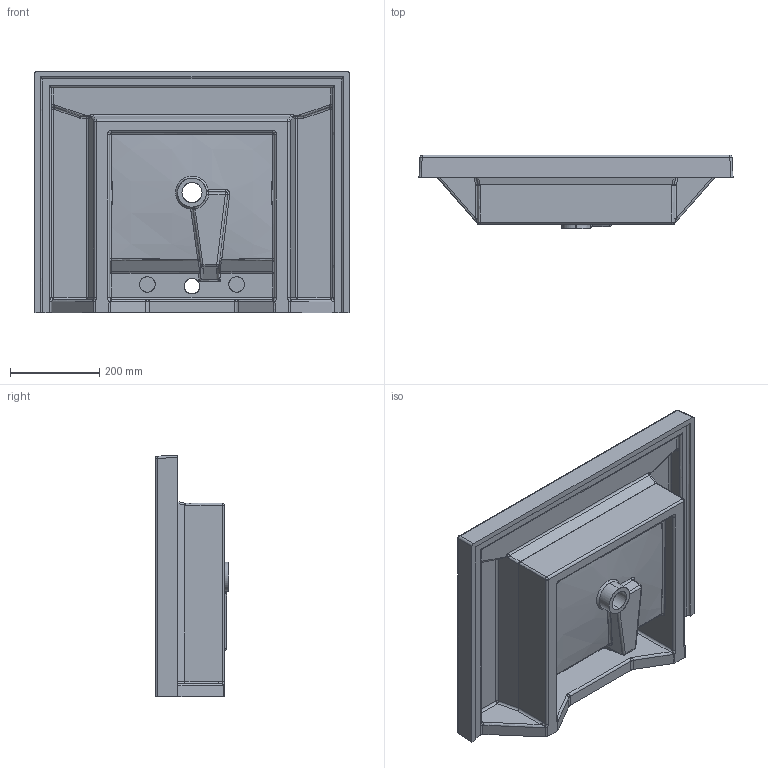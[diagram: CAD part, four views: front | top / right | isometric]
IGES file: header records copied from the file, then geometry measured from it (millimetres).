
Start section: SolidWorks IGES file using analytic representation for surfaces
Global section: file name: K:\lavabi tecla 3D IGS\p. MARS (5)\MARS 54x70MAR01011.IGS; native system: SolidWorks 2013; preprocessor: SolidWorks 2013; author: UTENTE 1; date: 140521.172313; units: millimetre
Bounding box: 705.24 x 165 x 542.62 mm (x, y, z)
Surface area: 1405615.1 mm2 (no closed solid volume)
Topology: 0 solids, 0 shells, 274 faces, 3217 edges, 3197 vertices
Faces by surface type: revolution 146, bspline 128
